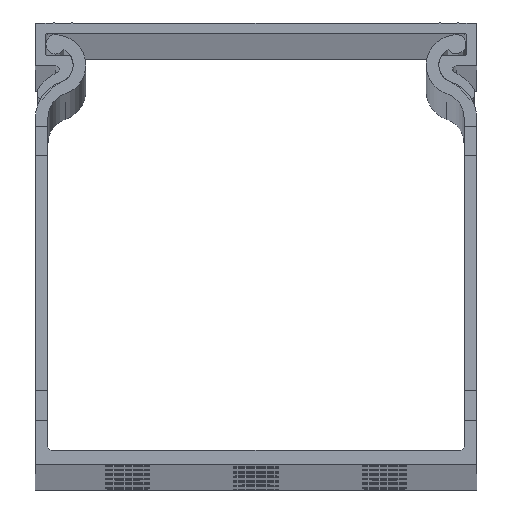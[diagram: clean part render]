
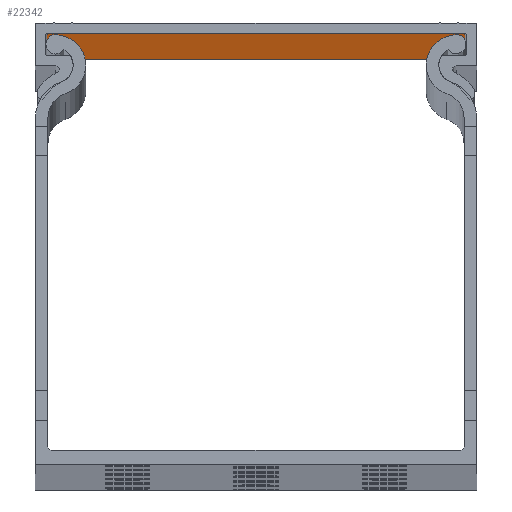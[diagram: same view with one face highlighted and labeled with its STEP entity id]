
A CAD part, top view. The second image highlights one B-rep face of the part: STEP entity #22342.
In plain terms, the highlighted planar face has unit normal (0, -1, 0).
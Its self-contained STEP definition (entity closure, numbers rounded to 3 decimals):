
#3784 = EDGE_CURVE ( 'NONE', #45319, #27393, #37718, .T. ) ;
#4128 = DIRECTION ( 'NONE',  ( 0., 1., 0. ) ) ;
#5117 = EDGE_LOOP ( 'NONE', ( #5709, #45813, #32347, #13881 ) ) ;
#5709 = ORIENTED_EDGE ( 'NONE', *, *, #51344, .T. ) ;
#6476 = FACE_OUTER_BOUND ( 'NONE', #5117, .T. ) ;
#7167 = DIRECTION ( 'NONE',  ( 1., 0., 0. ) ) ;
#11199 = LINE ( 'NONE', #43503, #48138 ) ;
#13881 = ORIENTED_EDGE ( 'NONE', *, *, #51434, .T. ) ;
#14060 = DIRECTION ( 'NONE',  ( 0., 0., -1. ) ) ;
#15075 = CARTESIAN_POINT ( 'NONE',  ( 2596.807, 1295.656, 0. ) ) ;
#17489 = DIRECTION ( 'NONE',  ( 1., 0., 0. ) ) ;
#19902 = CARTESIAN_POINT ( 'NONE',  ( 2540.007, 1295.656, 0. ) ) ;
#21184 = CARTESIAN_POINT ( 'NONE',  ( 2540.007, 1295.656, 2000. ) ) ;
#22342 = ADVANCED_FACE ( 'NONE', ( #6476 ), #48332, .F. ) ;
#23700 = DIRECTION ( 'NONE',  ( 0., 0., -1. ) ) ;
#25002 = CARTESIAN_POINT ( 'NONE',  ( 2568.407, 1295.656, 2000. ) ) ;
#26092 = VECTOR ( 'NONE', #7167, 1000. ) ;
#26826 = VERTEX_POINT ( 'NONE', #19902 ) ;
#27393 = VERTEX_POINT ( 'NONE', #46617 ) ;
#30578 = DIRECTION ( 'NONE',  ( 0., 0., 1. ) ) ;
#31923 = VECTOR ( 'NONE', #14060, 1000. ) ;
#32347 = ORIENTED_EDGE ( 'NONE', *, *, #3784, .F. ) ;
#35500 = CARTESIAN_POINT ( 'NONE',  ( 2596.807, 1295.656, 2000. ) ) ;
#37718 = LINE ( 'NONE', #25002, #26092 ) ;
#41002 = AXIS2_PLACEMENT_3D ( 'NONE', #52198, #4128, #30578 ) ;
#41315 = LINE ( 'NONE', #53946, #46775 ) ;
#43503 = CARTESIAN_POINT ( 'NONE',  ( 2568.407, 1295.656, 0. ) ) ;
#45319 = VERTEX_POINT ( 'NONE', #21184 ) ;
#45813 = ORIENTED_EDGE ( 'NONE', *, *, #55556, .F. ) ;
#46617 = CARTESIAN_POINT ( 'NONE',  ( 2596.807, 1295.656, 2000. ) ) ;
#46775 = VECTOR ( 'NONE', #23700, 1000. ) ;
#48138 = VECTOR ( 'NONE', #17489, 1000. ) ;
#48332 = PLANE ( 'NONE',  #41002 ) ;
#49694 = LINE ( 'NONE', #35500, #31923 ) ;
#50451 = VERTEX_POINT ( 'NONE', #15075 ) ;
#51344 = EDGE_CURVE ( 'NONE', #26826, #50451, #11199, .T. ) ;
#51434 = EDGE_CURVE ( 'NONE', #45319, #26826, #41315, .T. ) ;
#52198 = CARTESIAN_POINT ( 'NONE',  ( 2568.407, 1295.656, 2000. ) ) ;
#53946 = CARTESIAN_POINT ( 'NONE',  ( 2540.007, 1295.656, 2000. ) ) ;
#55556 = EDGE_CURVE ( 'NONE', #27393, #50451, #49694, .T. ) ;
